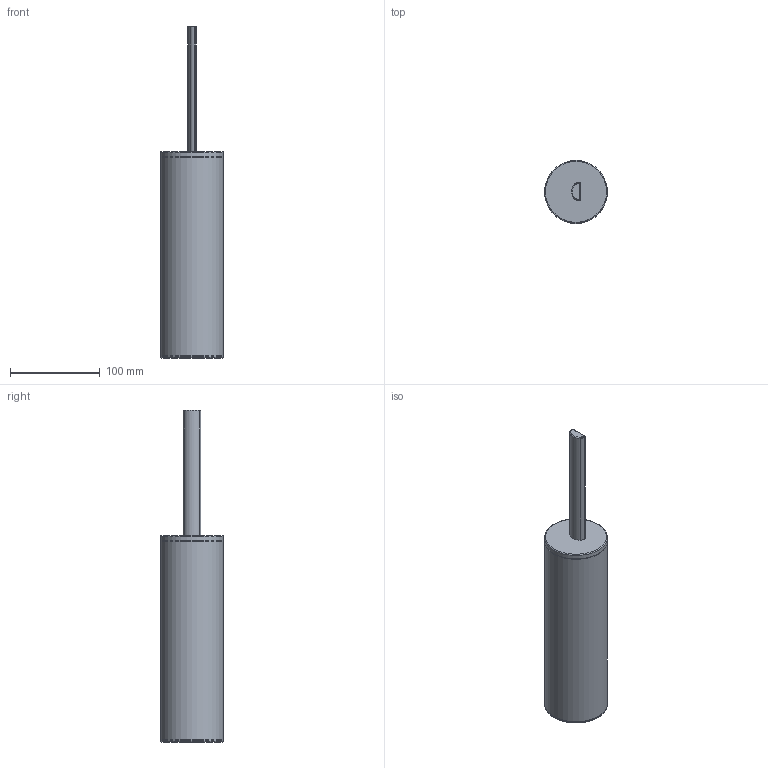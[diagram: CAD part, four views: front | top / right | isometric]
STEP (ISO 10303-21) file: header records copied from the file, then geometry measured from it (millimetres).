
FILE_DESCRIPTION(('STEP AP242'), '1');
FILE_NAME('89CR061', '', ('UNSPECIFIED'), ('UNSPECIFIED'), 'ASCON STEP Converter 1.6', 'ASCON Math Kernel', '');
FILE_SCHEMA(('AP242_MANAGED_MODEL_BASED_3D_ENGINEERING_MIM_LF { 1 0 10303 442 1 1 4 }'));
Length unit declared in the file: millimetre
Bounding box: 70 x 70 x 370 mm (x, y, z)
Volume: 908028.6 mm3; surface area: 65388.6 mm2
Topology: 1 solids, 1 shells, 28 faces, 59 edges, 32 vertices
Faces by surface type: cylinder 11, torus 9, plane 6, sphere 2
Full cylindrical faces by diameter (mm): 70 x3
Entity records: 942 total; most frequent: DIRECTION 137, CARTESIAN_POINT 109, ORIENTED_EDGE 96, AXIS2_PLACEMENT_3D 60, EDGE_CURVE 48, EDGE_LOOP 38, VERTEX_POINT 32, CIRCLE 31
